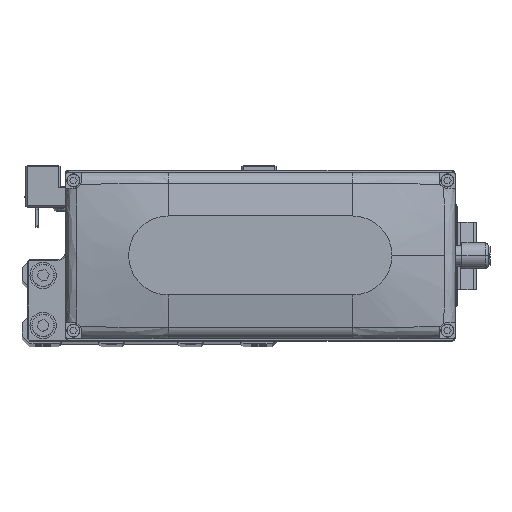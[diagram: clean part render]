
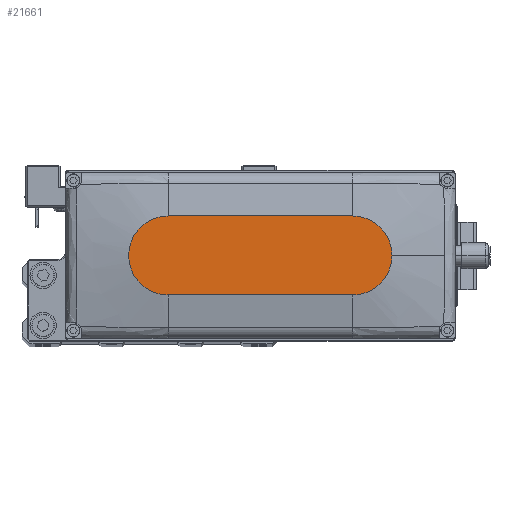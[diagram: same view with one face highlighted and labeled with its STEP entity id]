
A CAD part, top view. The second image highlights one B-rep face of the part: STEP entity #21661.
In plain terms, the highlighted planar face has unit normal (0, 0, 1).
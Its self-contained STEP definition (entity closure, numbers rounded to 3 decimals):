
#1492 = CARTESIAN_POINT ( 'NONE',  ( 35., -15., 35. ) ) ;
#1823 = CARTESIAN_POINT ( 'NONE',  ( -35., 0., 35. ) ) ;
#2356 = CARTESIAN_POINT ( 'NONE',  ( 35., 0., 35. ) ) ;
#2594 = ORIENTED_EDGE ( 'NONE', *, *, #23412, .T. ) ;
#3484 = DIRECTION ( 'NONE',  ( -1., 0., 0. ) ) ;
#4801 = DIRECTION ( 'NONE',  ( 0., 0., 1. ) ) ;
#5331 = EDGE_CURVE ( 'NONE', #18628, #31738, #12214, .T. ) ;
#5536 = CARTESIAN_POINT ( 'NONE',  ( -35., -15., 35. ) ) ;
#6296 = AXIS2_PLACEMENT_3D ( 'NONE', #24374, #37175, #8399 ) ;
#6408 = CIRCLE ( 'NONE', #11766, 15. ) ;
#7587 = ORIENTED_EDGE ( 'NONE', *, *, #5331, .T. ) ;
#8399 = DIRECTION ( 'NONE',  ( 1., 0., 0. ) ) ;
#11070 = DIRECTION ( 'NONE',  ( 1., 0., 0. ) ) ;
#11245 = CIRCLE ( 'NONE', #34724, 15. ) ;
#11552 = PLANE ( 'NONE',  #6296 ) ;
#11766 = AXIS2_PLACEMENT_3D ( 'NONE', #33551, #4801, #17607 ) ;
#12214 = CIRCLE ( 'NONE', #35686, 15. ) ;
#14637 = DIRECTION ( 'NONE',  ( 0., 0., 1. ) ) ;
#15165 = DIRECTION ( 'NONE',  ( 0., 0., 1. ) ) ;
#17607 = DIRECTION ( 'NONE',  ( 1., 0., 0. ) ) ;
#18628 = VERTEX_POINT ( 'NONE', #1492 ) ;
#19448 = LINE ( 'NONE', #32234, #23182 ) ;
#21661 = ADVANCED_FACE ( 'NONE', ( #40321 ), #11552, .T. ) ;
#22885 = ORIENTED_EDGE ( 'NONE', *, *, #28394, .T. ) ;
#23182 = VECTOR ( 'NONE', #3484, 1000. ) ;
#23412 = EDGE_CURVE ( 'NONE', #31738, #34643, #6408, .T. ) ;
#24374 = CARTESIAN_POINT ( 'NONE',  ( 0., 0., 35. ) ) ;
#25523 = ORIENTED_EDGE ( 'NONE', *, *, #40498, .T. ) ;
#25829 = ORIENTED_EDGE ( 'NONE', *, *, #29340, .T. ) ;
#26876 = VERTEX_POINT ( 'NONE', #5536 ) ;
#27053 = LINE ( 'NONE', #39852, #37315 ) ;
#27442 = DIRECTION ( 'NONE',  ( 1., 0., 0. ) ) ;
#27972 = DIRECTION ( 'NONE',  ( 1., 0., 0. ) ) ;
#28394 = EDGE_CURVE ( 'NONE', #34643, #31337, #19448, .T. ) ;
#29171 = CARTESIAN_POINT ( 'NONE',  ( 35., 15., 35. ) ) ;
#29340 = EDGE_CURVE ( 'NONE', #26876, #18628, #27053, .T. ) ;
#31337 = VERTEX_POINT ( 'NONE', #38926 ) ;
#31738 = VERTEX_POINT ( 'NONE', #35869 ) ;
#32234 = CARTESIAN_POINT ( 'NONE',  ( -35., 15., 35. ) ) ;
#33551 = CARTESIAN_POINT ( 'NONE',  ( 35., 0., 35. ) ) ;
#34643 = VERTEX_POINT ( 'NONE', #29171 ) ;
#34724 = AXIS2_PLACEMENT_3D ( 'NONE', #1823, #14637, #27442 ) ;
#35686 = AXIS2_PLACEMENT_3D ( 'NONE', #2356, #15165, #27972 ) ;
#35869 = CARTESIAN_POINT ( 'NONE',  ( 50., 0., 35. ) ) ;
#37175 = DIRECTION ( 'NONE',  ( 0., 0., 1. ) ) ;
#37315 = VECTOR ( 'NONE', #11070, 1000. ) ;
#38926 = CARTESIAN_POINT ( 'NONE',  ( -35., 15., 35. ) ) ;
#39852 = CARTESIAN_POINT ( 'NONE',  ( -35., -15., 35. ) ) ;
#40321 = FACE_OUTER_BOUND ( 'NONE', #40748, .T. ) ;
#40498 = EDGE_CURVE ( 'NONE', #31337, #26876, #11245, .T. ) ;
#40748 = EDGE_LOOP ( 'NONE', ( #22885, #25523, #25829, #7587, #2594 ) ) ;
